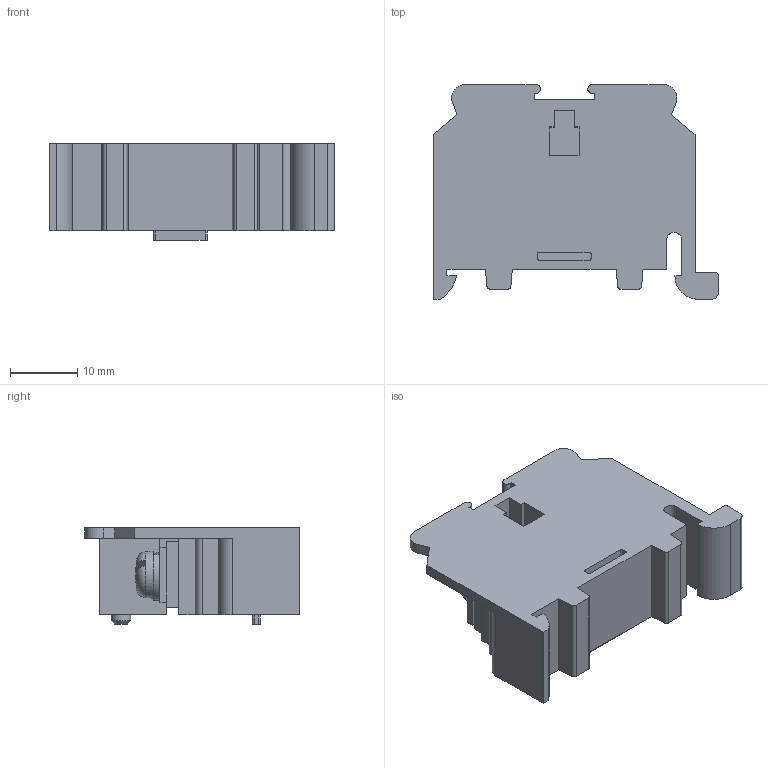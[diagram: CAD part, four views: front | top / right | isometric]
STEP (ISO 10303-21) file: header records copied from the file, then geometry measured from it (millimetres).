
FILE_DESCRIPTION(/* description */ (''),/* implementation_level */ '2;1');
FILE_NAME(/* name */ 'Z:\카다로그-외형도 관련\step-file 외형도\우현곤\YSAT351.stp',/* time_stamp */ '2017-07-19T09:53:20+09:00',/* author */ ('JUNG'),/* organization */ (''),/* preprocessor_version */ 'ST-DEVELOPER v16.1',/* originating_system */ 'Autodesk Inventor 2016',/* authorisation */ '');
FILE_SCHEMA (('AUTOMOTIVE_DESIGN { 1 0 10303 214 3 1 1 }'));
Length unit declared in the file: millimetre
Products named in the file (7): AT35 TERMINAL BLOCK; AT35 TERMINAL; AT35 PLATE WASHER; AT35 PLATE WASHER_MIR; JIS B 1101 - M4 x 8(2); JIS B 1251 - 번호 2 4 x 1; YSAT35
Assembly tree (8 placements, depth 2):
  YSAT35
    AT35 TERMINAL BLOCK
    AT35 TERMINAL
    AT35 PLATE WASHER
    AT35 PLATE WASHER_MIR
    JIS B 1101 - M4 x 8(2)  x2
    JIS B 1251 - 번호 2 4 x 1  x2
Bounding box: 42.5 x 32 x 14.4 mm (x, y, z)
Volume: 6744.4 mm3; surface area: 7898.4 mm2
Topology: 8 solids, 8 shells, 219 faces, 577 edges, 381 vertices
Faces by surface type: plane 154, cylinder 52, cone 7, sphere 4, torus 2
Full cylindrical faces by diameter (mm): 2.9 x1, 3.571 x2, 4 x6
Entity records: 6427 total; most frequent: CARTESIAN_POINT 1177, DIRECTION 1056, ORIENTED_EDGE 1048, EDGE_CURVE 524, LINE 406, VECTOR 406, VERTEX_POINT 354, AXIS2_PLACEMENT_3D 325
